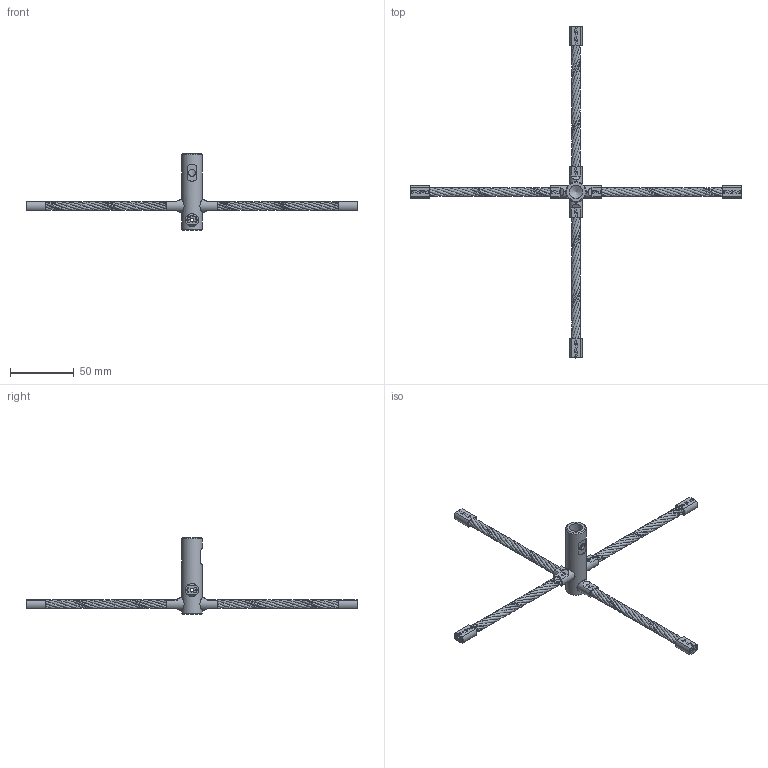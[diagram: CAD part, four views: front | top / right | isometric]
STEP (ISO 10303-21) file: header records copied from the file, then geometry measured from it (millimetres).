
FILE_DESCRIPTION(/* description */ (''),/* implementation_level */ '2;1');
FILE_NAME(/* name */ 'AC8-INOX.stp',/* time_stamp */ '2024-03-22T10:45:53+01:00',/* author */ ('filippo.guidetti'),/* organization */ (''),/* preprocessor_version */ 'ST-DEVELOPER v20',/* originating_system */ 'Autodesk Inventor 2024',/* authorisation */ '');
FILE_SCHEMA (('AUTOMOTIVE_DESIGN { 1 0 10303 214 3 1 1 }'));
Length unit declared in the file: millimetre
Products named in the file (1): AC8-INOX
Bounding box: 260 x 260 x 60 mm (x, y, z)
Volume: 24288.4 mm3; surface area: 29294.4 mm2
Topology: 3 solids, 3 shells, 249 faces, 765 edges, 514 vertices
Faces by surface type: bspline 130, plane 89, cylinder 27, cone 3
Full cylindrical faces by diameter (mm): 5.5 x1, 8 x2, 10 x2, 10.2 x3, 16 x1
Entity records: 31369 total; most frequent: CARTESIAN_POINT 25129, ORIENTED_EDGE 1528, DIRECTION 781, EDGE_CURVE 764, VERTEX_POINT 514, B_SPLINE_CURVE_WITH_KNOTS 388, AXIS2_PLACEMENT_3D 285, EDGE_LOOP 284
